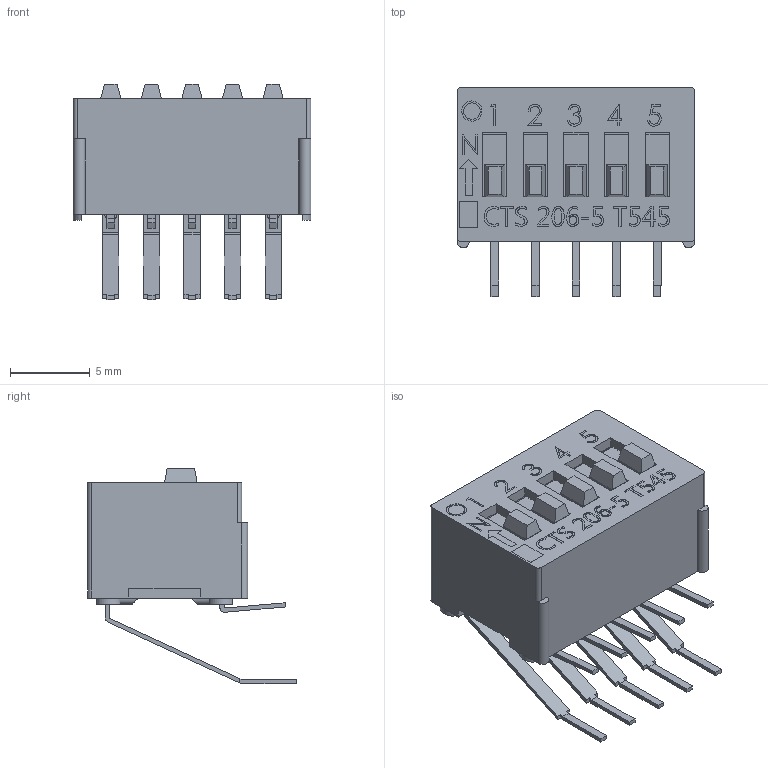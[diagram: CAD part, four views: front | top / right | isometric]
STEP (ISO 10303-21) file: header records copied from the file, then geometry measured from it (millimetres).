
FILE_DESCRIPTION (( 'STEP AP214' ), '1' );
FILE_NAME ('206-5RA.STEP', '2019-05-24T06:56:54', ( '' ), ( '' ), 'SwSTEP 2.0', 'SolidWorks 2019', '' );
FILE_SCHEMA (( 'AUTOMOTIVE_DESIGN' ));
Length unit declared in the file: millimetre
Products named in the file (4): 206-40-235-40-01(SPST-RA); 206-5RA; 206005RAS- Base assly; 206-56-014-35-01
Assembly tree (7 placements, depth 2):
  206-5RA
    206-40-235-40-01(SPST-RA)
    206-56-014-35-01  x5
    206005RAS- Base assly
Bounding box: 14.88 x 13.08 x 13.5 mm (x, y, z)
Volume: 663.9 mm3; surface area: 2126.3 mm2
Topology: 7 solids, 7 shells, 656 faces, 1769 edges, 1168 vertices
Faces by surface type: plane 472, bspline 108, cylinder 76
Entity records: 22098 total; most frequent: CARTESIAN_POINT 9431, ORIENTED_EDGE 2730, DIRECTION 2051, EDGE_CURVE 1365, LINE 1051, VECTOR 1051, VERTEX_POINT 904, EDGE_LOOP 553
